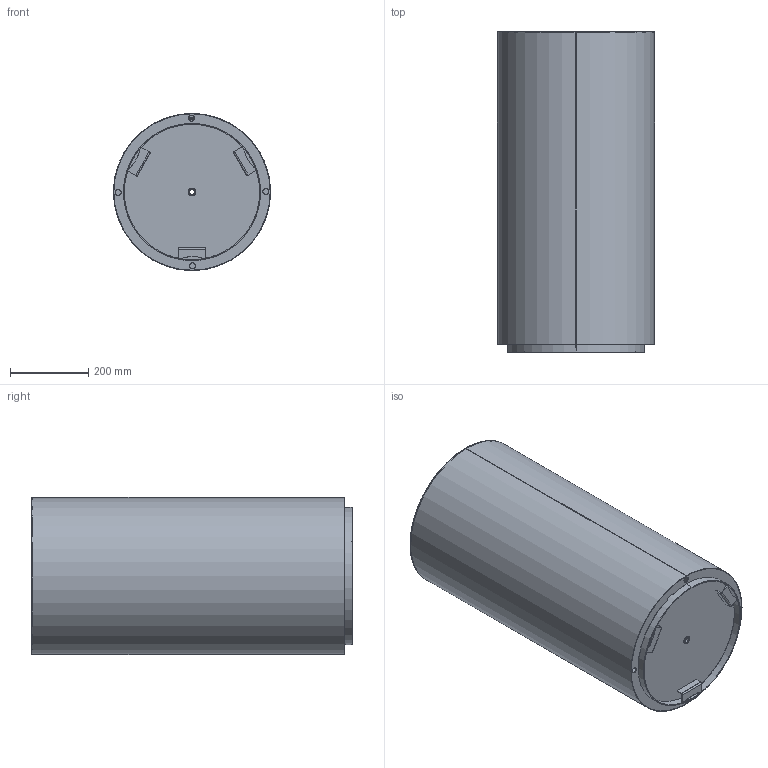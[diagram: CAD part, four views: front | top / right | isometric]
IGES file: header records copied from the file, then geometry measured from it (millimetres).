
Start section: SolidWorks IGES file using analytic representation for surfaces
Global section: file name: C:\VaultDeCastelli\Progetti\DC\PESO LEGGERO PRODOTTI\Ale\DeCastelli-3D-Cohiba large 82.igs; native system: SolidWorks 2022; preprocessor: SolidWorks 2022; author: AlessandroP; date: 240802.102648; units: millimetre
Bounding box: 402 x 820 x 402 mm (x, y, z)
Surface area: 2534048.2 mm2 (no closed solid volume)
Topology: 0 solids, 0 shells, 107 faces, 2062 edges, 2062 vertices
Faces by surface type: bspline 60, revolution 47
